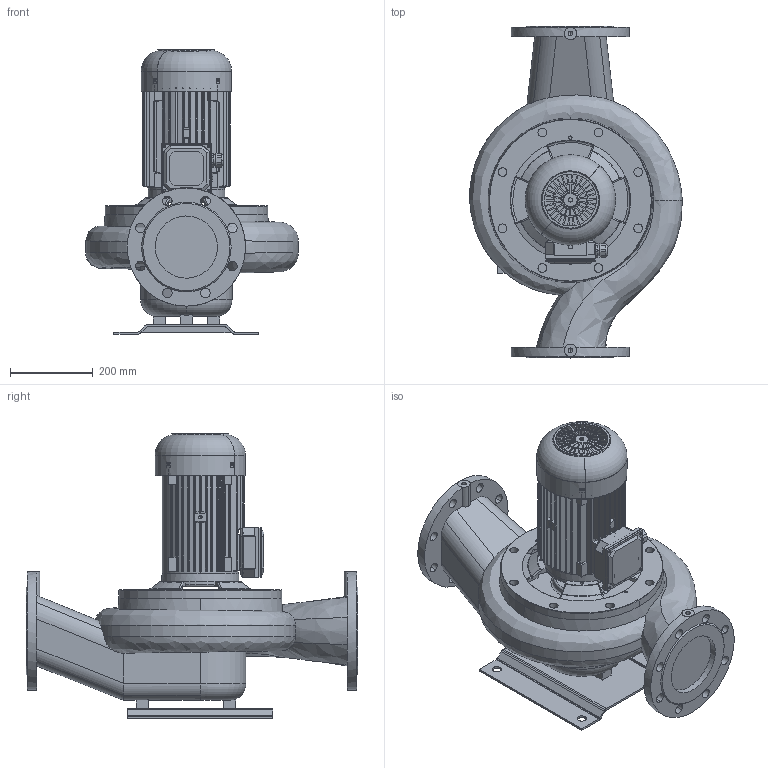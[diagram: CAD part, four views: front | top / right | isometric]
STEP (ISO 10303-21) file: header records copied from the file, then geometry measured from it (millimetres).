
FILE_DESCRIPTION(('STEP AP214'),'1');
FILE_NAME('export.stp','2018-05-28T10:45:01',(' '),(' '),'Spatial InterOp 3D',' ',' ');
FILE_SCHEMA(('AUTOMOTIVE_DESIGN { 1 0 10303 214 1 1 1 1 }'));
Length unit declared in the file: millimetre
Products named in the file (17): W_AL11544400KP112; V_TL110611291154; P100496; P100495; P100342; 440017; 440016; V_MKP112_2_F31; 480018; 480017; 440018; 440021; 480022; 480020; M25_Blind_Plug; M25_tiivisteholkk; V_PPAL1154
Assembly tree (17 placements, depth 4):
  W_AL11544400KP112
    V_TL110611291154
    P100496
      P100495  x2
      P100342
    V_MKP112_2_F31
      440017
        440016
      480018
        480017
      440018
      440021
      480022
      480020
      M25_Blind_Plug
      M25_tiivisteholkk
    V_PPAL1154
Bounding box: 512.96 x 800 x 685.4 mm (x, y, z)
Volume: 39918602.9 mm3; surface area: 2807839.9 mm2
Topology: 13 solids, 13 shells, 1662 faces, 4646 edges, 3052 vertices
Faces by surface type: cylinder 808, plane 558, cone 144, torus 121, bspline 31
Entity records: 66371 total; most frequent: CARTESIAN_POINT 20152, ORIENTED_EDGE 9240, DIRECTION 8962, EDGE_CURVE 4620, AXIS2_PLACEMENT_3D 3431, VERTEX_POINT 3044, LINE 2100, VECTOR 2100
